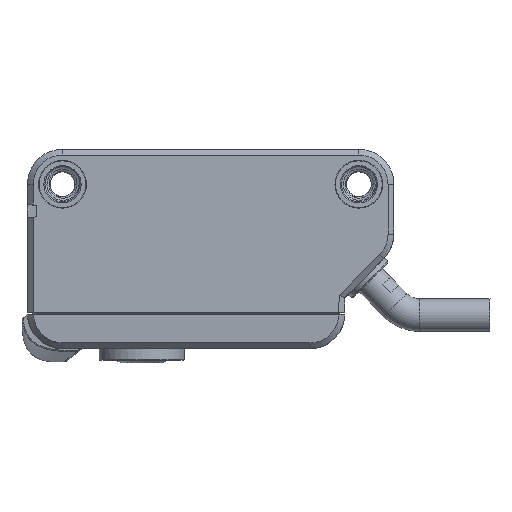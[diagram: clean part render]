
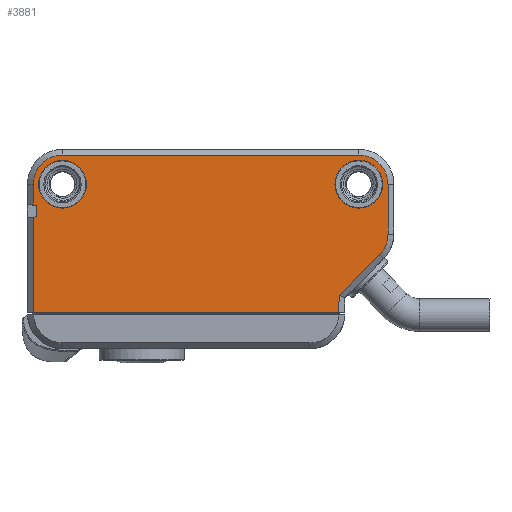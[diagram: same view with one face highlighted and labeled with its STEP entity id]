
A CAD part, left-side view. The second image highlights one B-rep face of the part: STEP entity #3881.
In plain terms, the highlighted planar face has unit normal (-1, 0, 0) as drawn and (0, 0, -1) by its records, which use the part's own axes.
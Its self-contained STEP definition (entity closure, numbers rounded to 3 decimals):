
#705=CARTESIAN_POINT('',(-12.7,-4.2,-6.));
#706=DIRECTION('',(0.,0.,1.));
#707=DIRECTION('',(0.,1.,0.));
#708=AXIS2_PLACEMENT_3D('',#705,#706,#707);
#713=CARTESIAN_POINT('',(-12.7,-8.472,-6.));
#714=DIRECTION('',(0.,0.,1.));
#715=DIRECTION('',(-1.,0.,0.));
#716=AXIS2_PLACEMENT_3D('',#713,#714,#715);
#721=DIRECTION('',(0.707,-0.707,0.));
#722=VECTOR('',#721,4.897);
#723=CARTESIAN_POINT('',(-14.467,-10.24,
-6.));
#724=LINE('',#723,#722);
#728=DIRECTION('',(0.,1.,0.));
#729=VECTOR('',#728,8.185);
#730=CARTESIAN_POINT('',(15.183,-15.2,-6.));
#731=LINE('',#730,#729);
#735=DIRECTION('',(-0.999,0.052,0.));
#736=VECTOR('',#735,0.283);
#737=CARTESIAN_POINT('',(15.183,-7.015,-6.));
#738=LINE('',#737,#736);
#742=DIRECTION('',(0.999,0.052,0.));
#743=VECTOR('',#742,0.3);
#744=CARTESIAN_POINT('',(14.9,-6.,-6.));
#745=LINE('',#744,#743);
#749=CARTESIAN_POINT('',(12.7,-4.2,-6.));
#750=DIRECTION('',(0.,0.,1.));
#751=DIRECTION('',(1.,0.,0.));
#752=AXIS2_PLACEMENT_3D('',#749,#750,#751);
#757=CARTESIAN_POINT('',(12.7,-4.2,-6.));
#758=DIRECTION('',(0.,0.,-1.));
#759=DIRECTION('',(0.,1.,0.));
#760=AXIS2_PLACEMENT_3D('',#757,#758,#759);
#765=CARTESIAN_POINT('',(12.7,-4.2,-6.));
#766=DIRECTION('',(0.,0.,-1.));
#767=DIRECTION('',(1.,0.,0.));
#768=AXIS2_PLACEMENT_3D('',#765,#766,#767);
#773=CARTESIAN_POINT('',(12.7,-4.2,-6.));
#774=DIRECTION('',(0.,0.,-1.));
#775=DIRECTION('',(0.,-1.,0.));
#776=AXIS2_PLACEMENT_3D('',#773,#774,#775);
#781=CARTESIAN_POINT('',(-12.7,-4.2,-6.));
#782=DIRECTION('',(0.,0.,-1.));
#783=DIRECTION('',(0.,-1.,0.));
#784=AXIS2_PLACEMENT_3D('',#781,#782,#783);
#789=CARTESIAN_POINT('',(-12.7,-4.2,-6.));
#790=DIRECTION('',(0.,0.,-1.));
#791=DIRECTION('',(0.,1.,0.));
#792=AXIS2_PLACEMENT_3D('',#789,#790,#791);
#797=CARTESIAN_POINT('',(-12.7,-4.2,-6.));
#798=DIRECTION('',(0.,0.,-1.));
#799=DIRECTION('',(1.,0.,0.));
#800=AXIS2_PLACEMENT_3D('',#797,#798,#799);
#813=DIRECTION('',(1.,0.,0.));
#814=VECTOR('',#813,25.4);
#815=CARTESIAN_POINT('',(-12.7,-1.7,
-6.));
#816=LINE('',#815,#814);
#856=DIRECTION('',(0.,-1.,0.));
#857=VECTOR('',#856,1.784);
#858=CARTESIAN_POINT('',(15.2,-4.2,-6.));
#859=LINE('',#858,#857);
#870=DIRECTION('',(0.,-1.,0.));
#871=VECTOR('',#870,1.);
#872=CARTESIAN_POINT('',(14.9,-6.,-6.));
#873=LINE('',#872,#871);
#989=DIRECTION('',(-1.,0.,0.));
#990=VECTOR('',#989,26.166);
#991=CARTESIAN_POINT('',(15.183,-15.2,-6.));
#992=LINE('',#991,#990);
#1024=DIRECTION('',(-0.014,1.,0.));
#1025=VECTOR('',#1024,1.497);
#1026=CARTESIAN_POINT('',(-10.984,-15.2,-6.));
#1027=LINE('',#1026,#1025);
#1928=DIRECTION('',(0.,1.,0.));
#1929=VECTOR('',#1928,4.272);
#1930=CARTESIAN_POINT('',(-15.2,-8.472,
-6.));
#1931=LINE('',#1930,#1929);
#3138=CARTESIAN_POINT('',(-14.467,-10.24,
-6.));
#3139=VERTEX_POINT('',#3138);
#3140=CARTESIAN_POINT('',(-11.004,-13.703,
-6.));
#3141=VERTEX_POINT('',#3140);
#3142=CARTESIAN_POINT('',(-15.2,-8.472,-6.));
#3143=VERTEX_POINT('',#3142);
#3144=CARTESIAN_POINT('',(-12.7,-1.7,-6.));
#3145=CARTESIAN_POINT('',(-15.2,-4.2,-6.));
#3146=VERTEX_POINT('',#3144);
#3147=VERTEX_POINT('',#3145);
#3148=CARTESIAN_POINT('',(-10.984,-15.2,-6.));
#3149=VERTEX_POINT('',#3148);
#3150=CARTESIAN_POINT('',(15.183,-15.2,-6.));
#3151=VERTEX_POINT('',#3150);
#3152=CARTESIAN_POINT('',(15.183,-7.015,
-6.));
#3153=VERTEX_POINT('',#3152);
#3154=CARTESIAN_POINT('',(14.9,-7.,-6.));
#3155=VERTEX_POINT('',#3154);
#3156=CARTESIAN_POINT('',(14.9,-6.,-6.));
#3157=VERTEX_POINT('',#3156);
#3158=CARTESIAN_POINT('',(15.2,-5.984,-6.));
#3159=VERTEX_POINT('',#3158);
#3160=CARTESIAN_POINT('',(15.2,-4.2,
-6.));
#3161=VERTEX_POINT('',#3160);
#3162=CARTESIAN_POINT('',(12.7,-1.7,-6.));
#3163=VERTEX_POINT('',#3162);
#3164=CARTESIAN_POINT('',(12.7,-2.2,-6.));
#3165=CARTESIAN_POINT('',(14.7,-4.2,-6.));
#3166=VERTEX_POINT('',#3164);
#3167=VERTEX_POINT('',#3165);
#3168=CARTESIAN_POINT('',(12.7,-6.2,-6.));
#3169=VERTEX_POINT('',#3168);
#3170=CARTESIAN_POINT('',(-12.7,-6.2,-6.));
#3171=CARTESIAN_POINT('',(-12.7,-2.2,-6.));
#3172=VERTEX_POINT('',#3170);
#3173=VERTEX_POINT('',#3171);
#3174=CARTESIAN_POINT('',(-10.7,-4.2,-6.));
#3175=VERTEX_POINT('',#3174);
#3834=CARTESIAN_POINT('',(15.7,0.,-6.));
#3835=DIRECTION('',(0.,0.,-1.));
#3836=DIRECTION('',(-1.,0.,0.));
#3837=AXIS2_PLACEMENT_3D('',#3834,#3835,#3836);
#3838=PLANE('',#3837);
#3840=ORIENTED_EDGE('',*,*,#3839,.T.);
#3842=ORIENTED_EDGE('',*,*,#3841,.F.);
#3843=ORIENTED_EDGE('',*,*,#3825,.T.);
#3844=ORIENTED_EDGE('',*,*,#3814,.T.);
#3846=ORIENTED_EDGE('',*,*,#3845,.F.);
#3848=ORIENTED_EDGE('',*,*,#3847,.F.);
#3850=ORIENTED_EDGE('',*,*,#3849,.T.);
#3852=ORIENTED_EDGE('',*,*,#3851,.T.);
#3854=ORIENTED_EDGE('',*,*,#3853,.F.);
#3856=ORIENTED_EDGE('',*,*,#3855,.T.);
#3858=ORIENTED_EDGE('',*,*,#3857,.F.);
#3860=ORIENTED_EDGE('',*,*,#3859,.T.);
#3862=ORIENTED_EDGE('',*,*,#3861,.F.);
#3863=EDGE_LOOP('',(#3840,#3842,#3843,#3844,#3846,#3848,#3850,#3852,#3854,#3856,
#3858,#3860,#3862));
#3864=FACE_OUTER_BOUND('',#3863,.F.);
#3866=ORIENTED_EDGE('',*,*,#3865,.T.);
#3868=ORIENTED_EDGE('',*,*,#3867,.T.);
#3870=ORIENTED_EDGE('',*,*,#3869,.T.);
#3871=EDGE_LOOP('',(#3866,#3868,#3870));
#3872=FACE_BOUND('',#3871,.F.);
#3874=ORIENTED_EDGE('',*,*,#3873,.T.);
#3876=ORIENTED_EDGE('',*,*,#3875,.T.);
#3878=ORIENTED_EDGE('',*,*,#3877,.T.);
#3879=EDGE_LOOP('',(#3874,#3876,#3878));
#3880=FACE_BOUND('',#3879,.F.);
#3881=ADVANCED_FACE('',(#3864,#3872,#3880),#3838,.T.);
#709=CIRCLE('',#708,2.5);
#717=CIRCLE('',#716,2.5);
#753=CIRCLE('',#752,2.5);
#761=CIRCLE('',#760,2.);
#769=CIRCLE('',#768,2.);
#777=CIRCLE('',#776,2.);
#785=CIRCLE('',#784,2.);
#793=CIRCLE('',#792,2.);
#801=CIRCLE('',#800,2.);
#3814=EDGE_CURVE('',#3139,#3141,#724,.T.);
#3825=EDGE_CURVE('',#3143,#3139,#717,.T.);
#3839=EDGE_CURVE('',#3146,#3147,#709,.T.);
#3841=EDGE_CURVE('',#3143,#3147,#1931,.T.);
#3845=EDGE_CURVE('',#3149,#3141,#1027,.T.);
#3847=EDGE_CURVE('',#3151,#3149,#992,.T.);
#3849=EDGE_CURVE('',#3151,#3153,#731,.T.);
#3851=EDGE_CURVE('',#3153,#3155,#738,.T.);
#3853=EDGE_CURVE('',#3157,#3155,#873,.T.);
#3855=EDGE_CURVE('',#3157,#3159,#745,.T.);
#3857=EDGE_CURVE('',#3161,#3159,#859,.T.);
#3859=EDGE_CURVE('',#3161,#3163,#753,.T.);
#3861=EDGE_CURVE('',#3146,#3163,#816,.T.);
#3865=EDGE_CURVE('',#3166,#3167,#761,.T.);
#3867=EDGE_CURVE('',#3167,#3169,#769,.T.);
#3869=EDGE_CURVE('',#3169,#3166,#777,.T.);
#3873=EDGE_CURVE('',#3172,#3173,#785,.T.);
#3875=EDGE_CURVE('',#3173,#3175,#793,.T.);
#3877=EDGE_CURVE('',#3175,#3172,#801,.T.);
